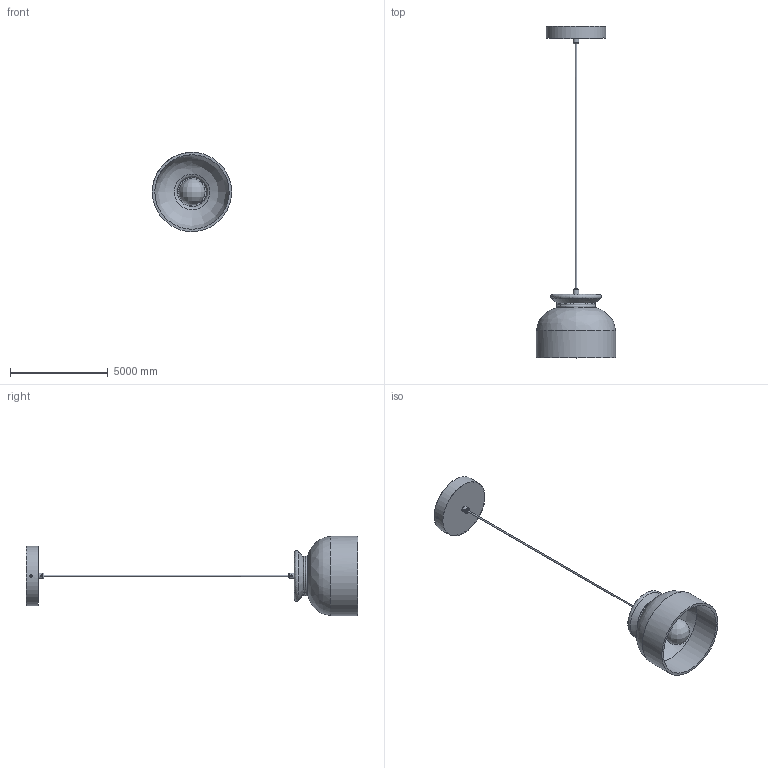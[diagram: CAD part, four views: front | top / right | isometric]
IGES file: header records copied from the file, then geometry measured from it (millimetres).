
Global section: file name: Easton Pendant Lamp-Model-A; native system: AutoCAD 2022 - 简体中文 (Simplified Chinese),62HAuto; preprocessor: desk Translation Framework DWG producer (atf_dwg_producer); organization: unknown; date: 20260324.165150; units: inch
Bounding box: 4056.76 x 16988.05 x 4056.74 mm (x, y, z)
Volume: 8499702090.4 mm3; surface area: 138793996 mm2
Topology: 9 solids, 9 shells, 79 faces, 219 edges, 160 vertices
Faces by surface type: bspline 79
